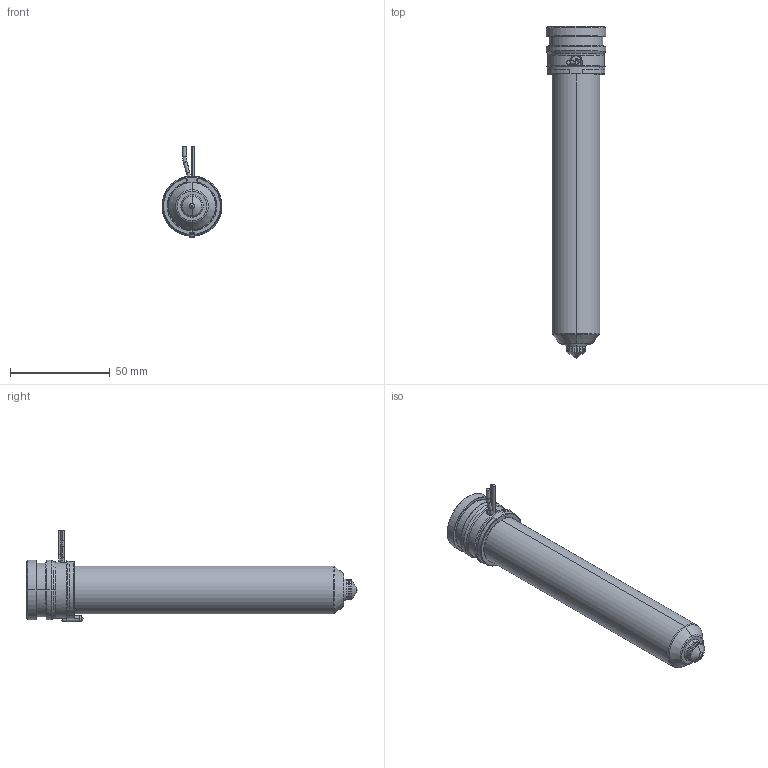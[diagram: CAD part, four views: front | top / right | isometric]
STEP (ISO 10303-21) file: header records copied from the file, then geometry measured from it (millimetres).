
FILE_DESCRIPTION((''),'2;1');
FILE_NAME('MPN-10-29-TS10-146-A','2026-02-05T12:33:32',('UPTIO'),('Thermoplay S.p.A.'),'CREO PARAMETRIC BY PTC INC, 2023494','CREO PARAMETRIC BY PTC INC, 2023494','');
FILE_SCHEMA(('CONFIG_CONTROL_DESIGN','SHAPE_APPEARANCE_LAYERS_GROUPS'));
Length unit declared in the file: millimetre
Products named in the file (1): MPN-10-29-TS10-146-A
Bounding box: 30 x 166 x 46 mm (x, y, z)
Volume: 51967 mm3; surface area: 52299.4 mm2
Topology: 2 solids, 3 shells, 552 faces, 1455 edges, 898 vertices
Faces by surface type: cylinder 180, plane 145, bspline 78, torus 68, cone 66, sphere 11, extrusion 4
Entity records: 31300 total; most frequent: CARTESIAN_POINT 14921, ORIENTED_EDGE 2894, DIRECTION 2651, EDGE_CURVE 1447, AXIS2_PLACEMENT_3D 1051, VERTEX_POINT 898, EDGE_LOOP 581, CIRCLE 580
